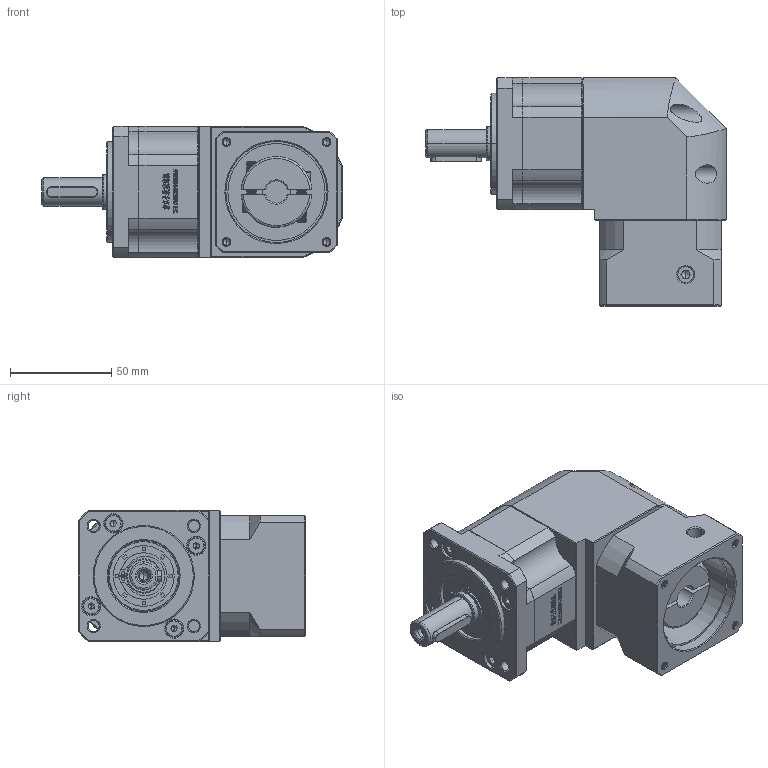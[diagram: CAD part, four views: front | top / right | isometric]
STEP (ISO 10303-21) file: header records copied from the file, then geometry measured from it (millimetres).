
FILE_DESCRIPTION (( 'STEP AP214' ), '1' );
FILE_NAME ('ZBR60-D14-L1-11-50-70-M4.STEP', '2022-04-19T08:24:19', ( '' ), ( 'Microsoft' ), 'SwSTEP 2.0', 'SolidWorks 2016', '' );
FILE_SCHEMA (( 'AUTOMOTIVE_DESIGN' ));
Length unit declared in the file: millimetre
Products named in the file (1): ZBR60-D14-L1-11-50-70-M4
Bounding box: 148.5 x 112.7 x 65 mm (x, y, z)
Volume: 526344 mm3; surface area: 77449.4 mm2
Topology: 5 solids, 5 shells, 2835 faces, 7689 edges, 4990 vertices
Faces by surface type: plane 1472, bspline 579, cylinder 424, cone 326, torus 34
Entity records: 152689 total; most frequent: CARTESIAN_POINT 54357, ORIENTED_EDGE 15318, DIRECTION 11689, EDGE_CURVE 7659, VECTOR 5037, LINE 5037, VERTEX_POINT 4990, AXIS2_PLACEMENT_3D 3326
